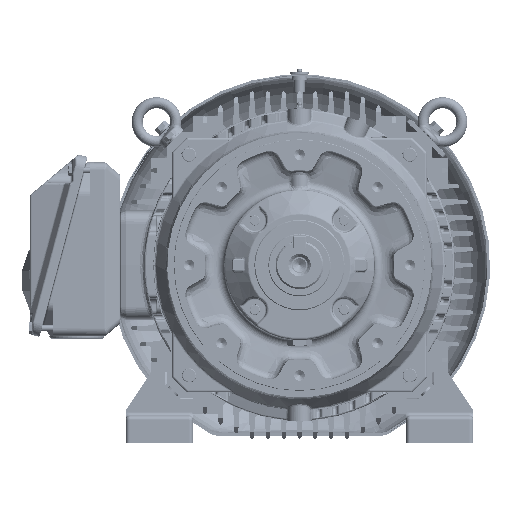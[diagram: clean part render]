
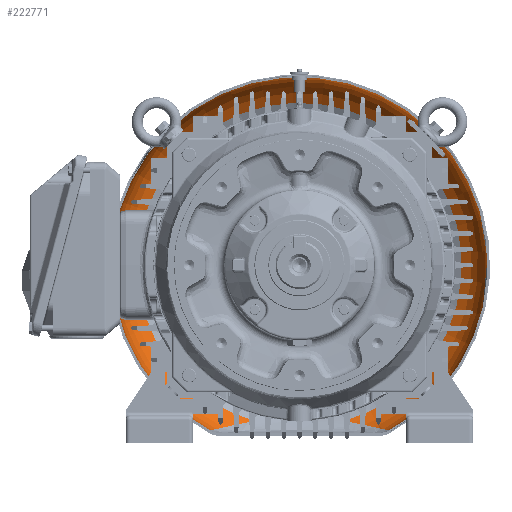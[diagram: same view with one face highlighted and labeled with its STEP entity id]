
A CAD part, front view. The second image highlights one B-rep face of the part: STEP entity #222771.
In plain terms, the highlighted toroidal (fillet/blend) face has major radius 173 mm and minor radius 65 mm.
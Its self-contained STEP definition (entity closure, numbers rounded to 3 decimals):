
#1912=TOROIDAL_SURFACE('',#233690,173.,65.);
#2982=B_SPLINE_CURVE_WITH_KNOTS('',3,(#306654,#306655,#306656,#306657,#306658,
#306659,#306660,#306661,#306662,#306663,#306664,#306665,#306666,#306667,
#306668,#306669,#306670,#306671,#306672,#306673,#306674,#306675,#306676,
#306677,#306678,#306679,#306680,#306681),.UNSPECIFIED.,.F.,.F.,(4,1,1,1,
1,1,1,1,1,1,1,1,1,1,1,1,1,1,1,1,1,1,1,1,1,4),(0.,0.063,0.125,0.188,0.219,
0.234,0.25,0.266,0.281,0.313,0.375,0.438,0.469,0.484,0.5,
0.516,0.531,0.563,0.625,0.688,0.719,0.75,0.781,0.813,0.875,
1.),.UNSPECIFIED.);
#2983=B_SPLINE_CURVE_WITH_KNOTS('',3,(#306685,#306686,#306687,#306688,#306689,
#306690,#306691,#306692,#306693,#306694,#306695,#306696,#306697,#306698,
#306699,#306700,#306701,#306702,#306703,#306704,#306705,#306706,#306707,
#306708,#306709,#306710,#306711,#306712),.UNSPECIFIED.,.F.,.F.,(4,1,1,1,
1,1,1,1,1,1,1,1,1,1,1,1,1,1,1,1,1,1,1,1,1,4),(0.,0.125,0.188,0.219,0.25,
0.281,0.313,0.375,0.438,0.469,0.484,0.5,0.516,0.531,0.563,
0.625,0.688,0.719,0.734,0.75,0.766,0.781,0.813,0.875,0.938,
1.),.UNSPECIFIED.);
#45877=ORIENTED_EDGE('',*,*,#85990,.T.);
#45878=ORIENTED_EDGE('',*,*,#88804,.T.);
#45879=ORIENTED_EDGE('',*,*,#88805,.F.);
#45880=ORIENTED_EDGE('',*,*,#88806,.T.);
#85990=EDGE_CURVE('',#108945,#108946,#123357,.T.);
#88804=EDGE_CURVE('',#108946,#110817,#2982,.T.);
#88805=EDGE_CURVE('',#110818,#110817,#124220,.T.);
#88806=EDGE_CURVE('',#110818,#108945,#2983,.T.);
#108945=VERTEX_POINT('',#294949);
#108946=VERTEX_POINT('',#294950);
#110817=VERTEX_POINT('',#306682);
#110818=VERTEX_POINT('',#306684);
#123357=CIRCLE('',#231815,238.);
#124220=CIRCLE('',#233691,205.5);
#130236=EDGE_LOOP('',(#45877,#45878,#45879,#45880));
#141831=FACE_BOUND('',#130236,.T.);
#222771=ADVANCED_FACE('',(#141831),#1912,.F.);
#231815=AXIS2_PLACEMENT_3D('',#294948,#248735,#248736);
#233690=AXIS2_PLACEMENT_3D('',#306653,#253915,#253916);
#233691=AXIS2_PLACEMENT_3D('',#306683,#253917,#253918);
#248735=DIRECTION('',(0.,-1.,0.));
#248736=DIRECTION('',(-1.,0.,0.));
#253915=DIRECTION('',(0.,-1.,0.));
#253916=DIRECTION('',(-1.,0.,0.));
#253917=DIRECTION('',(0.,-1.,0.));
#253918=DIRECTION('',(-1.,0.,0.));
#294948=CARTESIAN_POINT('',(0.,586.903,0.));
#294949=CARTESIAN_POINT('',(113.128,586.903,-209.394));
#294950=CARTESIAN_POINT('',(-113.128,586.903,-209.394));
#306653=CARTESIAN_POINT('',(0.,586.903,0.));
#306654=CARTESIAN_POINT('',(-113.128,586.903,-209.394));
#306655=CARTESIAN_POINT('',(-113.128,588.698,-209.394));
#306656=CARTESIAN_POINT('',(-112.911,592.273,-209.343));
#306657=CARTESIAN_POINT('',(-111.938,597.559,-209.119));
#306658=CARTESIAN_POINT('',(-110.601,601.868,-208.816));
#306659=CARTESIAN_POINT('',(-109.391,604.828,-208.541));
#306660=CARTESIAN_POINT('',(-108.63,606.488,-208.368));
#306661=CARTESIAN_POINT('',(-108.004,607.755,-208.225));
#306662=CARTESIAN_POINT('',(-107.406,608.889,-208.089));
#306663=CARTESIAN_POINT('',(-106.547,610.423,-207.892));
#306664=CARTESIAN_POINT('',(-104.947,613.039,-207.527));
#306665=CARTESIAN_POINT('',(-102.36,616.635,-206.938));
#306666=CARTESIAN_POINT('',(-99.406,620.015,-206.271));
#306667=CARTESIAN_POINT('',(-97.148,622.272,-205.764));
#306668=CARTESIAN_POINT('',(-95.817,623.519,-205.466));
#306669=CARTESIAN_POINT('',(-94.766,624.463,-205.231));
#306670=CARTESIAN_POINT('',(-93.799,625.296,-205.015));
#306671=CARTESIAN_POINT('',(-92.451,626.416,-204.713));
#306672=CARTESIAN_POINT('',(-90.046,628.298,-204.178));
#306673=CARTESIAN_POINT('',(-86.435,630.818,-203.38));
#306674=CARTESIAN_POINT('',(-82.617,633.111,-202.55));
#306675=CARTESIAN_POINT('',(-79.462,634.807,-201.874));
#306676=CARTESIAN_POINT('',(-77.003,636.032,-201.353));
#306677=CARTESIAN_POINT('',(-74.638,637.128,-200.857));
#306678=CARTESIAN_POINT('',(-71.399,638.524,-200.185));
#306679=CARTESIAN_POINT('',(-65.648,640.737,-199.018));
#306680=CARTESIAN_POINT('',(-60.553,642.29,-198.04));
#306681=CARTESIAN_POINT('',(-57.094,643.195,-197.409));
#306682=CARTESIAN_POINT('',(-57.094,643.195,-197.409));
#306683=CARTESIAN_POINT('',(0.,643.195,0.));
#306684=CARTESIAN_POINT('',(57.094,643.195,-197.409));
#306685=CARTESIAN_POINT('',(57.094,643.195,-197.409));
#306686=CARTESIAN_POINT('',(60.56,642.288,-198.042));
#306687=CARTESIAN_POINT('',(65.666,640.732,-199.021));
#306688=CARTESIAN_POINT('',(71.43,638.511,-200.191));
#306689=CARTESIAN_POINT('',(74.674,637.111,-200.864));
#306690=CARTESIAN_POINT('',(77.051,636.009,-201.363));
#306691=CARTESIAN_POINT('',(79.49,634.792,-201.881));
#306692=CARTESIAN_POINT('',(82.631,633.102,-202.553));
#306693=CARTESIAN_POINT('',(86.428,630.822,-203.378));
#306694=CARTESIAN_POINT('',(90.021,628.316,-204.172));
#306695=CARTESIAN_POINT('',(92.412,626.446,-204.704));
#306696=CARTESIAN_POINT('',(93.755,625.333,-205.005));
#306697=CARTESIAN_POINT('',(94.714,624.509,-205.219));
#306698=CARTESIAN_POINT('',(95.773,623.56,-205.456));
#306699=CARTESIAN_POINT('',(97.109,622.31,-205.756));
#306700=CARTESIAN_POINT('',(99.376,620.047,-206.265));
#306701=CARTESIAN_POINT('',(102.339,616.663,-206.933));
#306702=CARTESIAN_POINT('',(104.932,613.062,-207.523));
#306703=CARTESIAN_POINT('',(106.534,610.446,-207.889));
#306704=CARTESIAN_POINT('',(107.394,608.911,-208.086));
#306705=CARTESIAN_POINT('',(107.992,607.778,-208.222));
#306706=CARTESIAN_POINT('',(108.62,606.508,-208.366));
#306707=CARTESIAN_POINT('',(109.383,604.844,-208.54));
#306708=CARTESIAN_POINT('',(110.596,601.878,-208.816));
#306709=CARTESIAN_POINT('',(111.936,597.564,-209.12));
#306710=CARTESIAN_POINT('',(112.911,592.273,-209.343));
#306711=CARTESIAN_POINT('',(113.128,588.697,-209.394));
#306712=CARTESIAN_POINT('',(113.128,586.903,-209.394));
